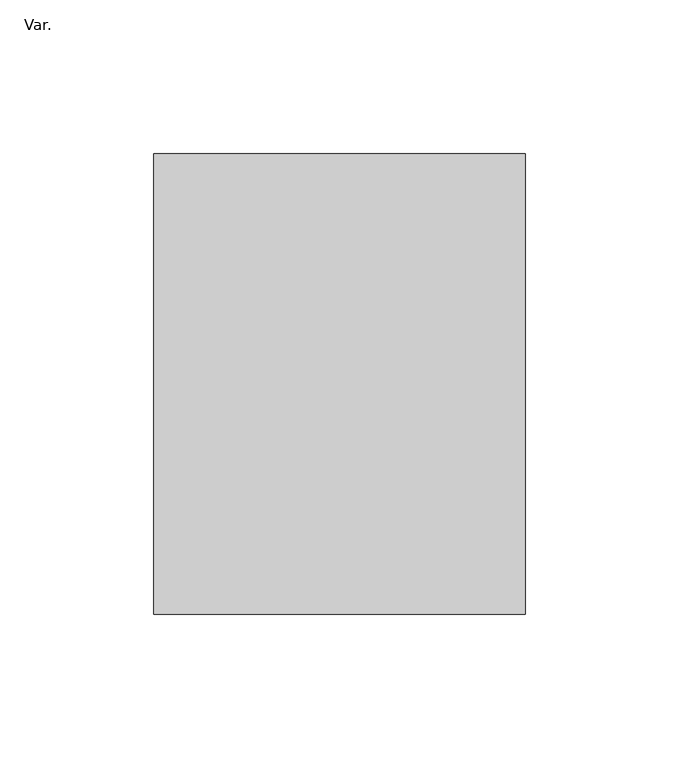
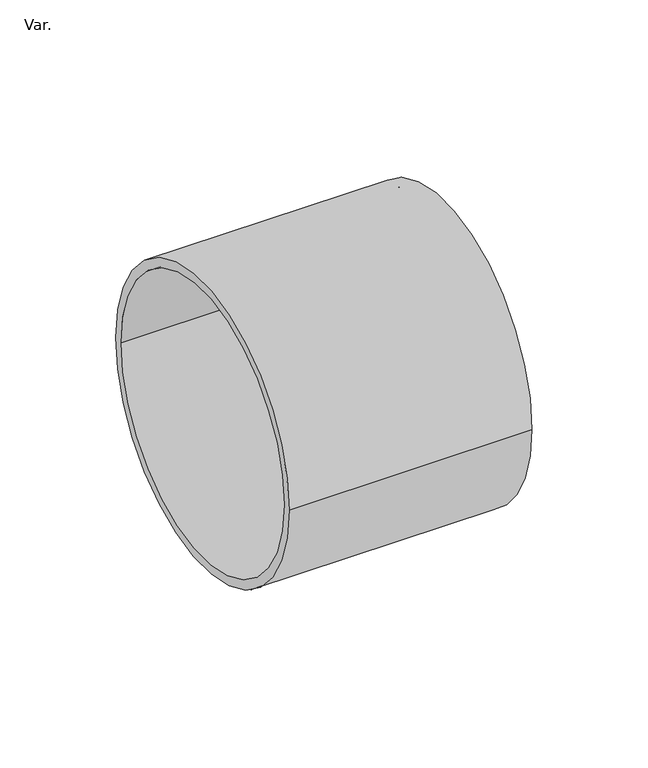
"""IFC4 building model written with IfcOpenShell, lengths in millimetres: pipe fitting geometry, AmancoWavin_ConexõesdeTubos_EsgotoZNãoUsarCaixaSifonadaSilentiumProlongamento : Var.."""

from ifc_helpers import new_model, si_unit, point, frame, origin, origin_2d, place, context, project, spatial, circle_curve, trimmed, segment, composite_curve, outline, extrude, source, transform, mapped, element, save


def var_08b32b5d(model_context):
    return source(origin(), model_context, "Body", "SweptSolid", [
        extrude(outline(composite_curve([segment(trimmed(circle_curve(origin_2d(), 75.0), [point((-75.0, 0.0))], [point((75.0, 0.0))], False, "CARTESIAN"), True, "CONTINUOUS"), segment(trimmed(circle_curve(origin_2d(), 75.0), [point((75.0, 0.0))], [point((-75.0, 0.0))], False, "CARTESIAN"), True, "CONTINUOUS")], self_intersect=False), holes=[composite_curve([segment(trimmed(circle_curve(origin_2d(), 70.4), [point((-70.4, 0.0))], [point((70.4, 0.0))], True, "CARTESIAN"), True, "CONTINUOUS"), segment(trimmed(circle_curve(origin_2d(), 70.4), [point((70.4, 0.0))], [point((-70.4, 0.0))], True, "CARTESIAN"), True, "CONTINUOUS")], self_intersect=False)]), frame((0.0, 0.0, 0.0), z_axis=(1.0, 0.0, 0.0), x_axis=(0.0, 1.0, 0.0)), (0.0, 0.0, 1.0), 121.0),
    ])


if __name__ == "__main__":
    model = new_model("IFC4")
    model_context = context("Model", 3, world=origin())
    ifc_project = project(units=[si_unit("LENGTHUNIT", "METRE", prefix="MILLI")], contexts=[model_context])
    site = spatial("IfcSite", under=ifc_project)
    building = spatial("IfcBuilding", under=site)
    placement = place(None, origin())
    var_shape = var_08b32b5d(model_context)
    element("IfcPipeFitting", 1, ObjectType="AmancoWavin_ConexõesdeTubos_EsgotoZNãoUsarCaixaSifonadaSilentiumProlongamento : Var.", at=placement, inside=building, context=model_context, shape_type="MappedRepresentation", body=[
        mapped(var_shape, transform((0.0, 0.0, 0.0), x_axis=(1.0, 0.0, 0.0), y_axis=(0.0, 1.0, 0.0), z_axis=(0.0, 0.0, 1.0))),
    ])
    save(model, "model.ifc")
